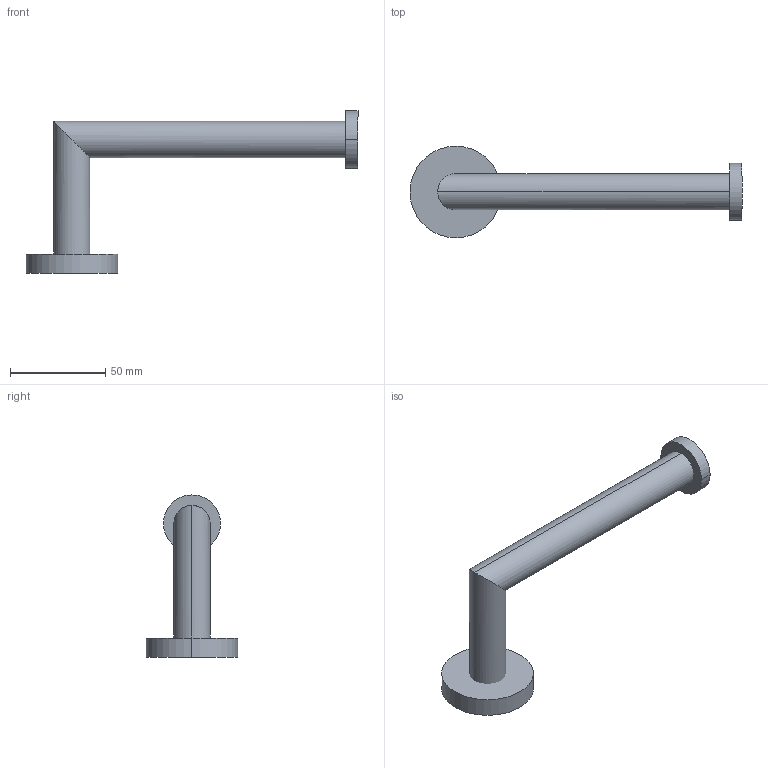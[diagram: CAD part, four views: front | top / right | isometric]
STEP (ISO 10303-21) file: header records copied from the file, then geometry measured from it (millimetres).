
FILE_DESCRIPTION(('FreeCAD Model'),'2;1');
FILE_NAME('Open CASCADE Shape Model','2024-08-10T19:01:11',('Author'),( ''),'Open CASCADE STEP processor 7.6','FreeCAD','Unknown');
FILE_SCHEMA(('AUTOMOTIVE_DESIGN { 1 0 10303 214 1 1 1 1 }'));
Length unit declared in the file: millimetre
Products named in the file (4): TopLevelAssembly; Wyciąganie001; Wyciągnięcie po ścieżce; Wyciąganie002
Assembly tree (3 placements, depth 2):
  TopLevelAssembly
    Wyciąganie001
    Wyciągnięcie po ścieżce
    Wyciąganie002
Bounding box: 174 x 48 x 85 mm (x, y, z)
Volume: 83223.5 mm3; surface area: 20464.3 mm2
Topology: 3 solids, 3 shells, 14 faces, 24 edges, 16 vertices
Faces by surface type: cylinder 8, plane 6
Entity records: 436 total; most frequent: DIRECTION 76, CARTESIAN_POINT 58, ORIENTED_EDGE 48, AXIS2_PLACEMENT_3D 34, EDGE_CURVE 24, VERTEX_POINT 16, ADVANCED_FACE 14, FACE_BOUND 14
